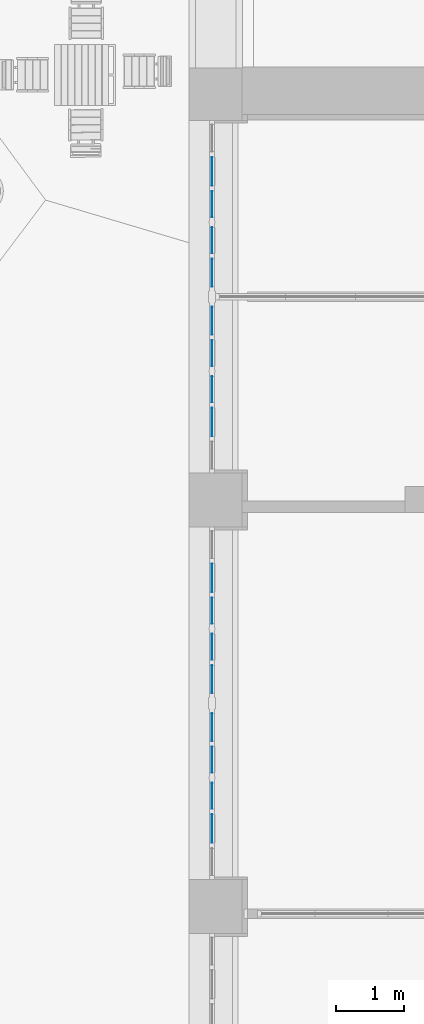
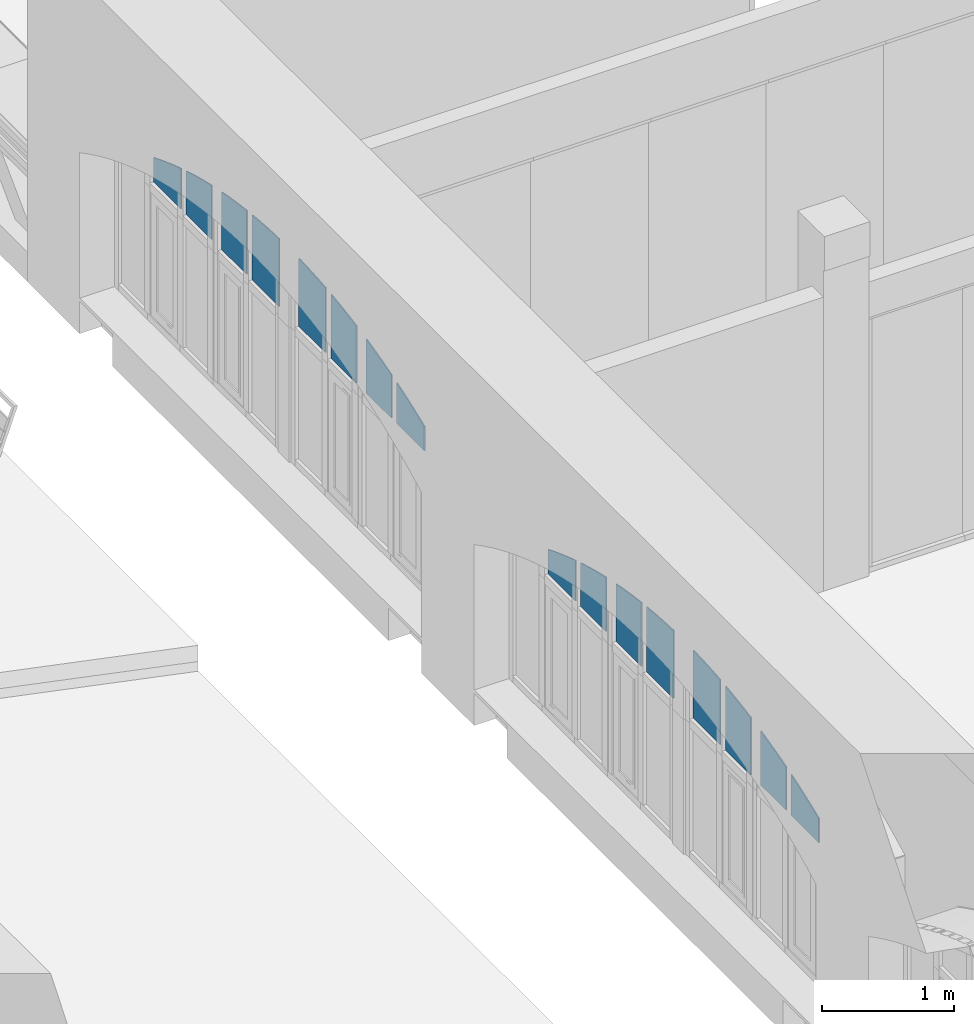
# One storey, part 69 of 88: 16 plates, 2 elements without a shape of their own.
"""IFC2X3 building model written with IfcOpenShell, lengths in millimetres."""

import ifcopenshell
import ifcopenshell.guid

model = None  # the IFC model being written
_history = None  # IfcOwnerHistory: only IFC2X3 demands one
_inside = {}  # id of a spatial element -> (the spatial element, [elements in it])
_under = {}  # id of a project, library or spatial element -> (it, [spatial elements below it])
_declared = {}  # id of a project -> (the project, [libraries it declares])
_typed = {}  # id of a type object -> (the type object, [elements of that type])
_made_of = {}  # id of a material, layer set ... -> (it, [elements and type objects made of it])


def new_model(schema):
    """Start an empty IFC model of exactly this schema.

    Asked for "IFC4X3", IfcOpenShell would pick the latest addendum, in which some entities
    have other attributes; the version numbers below select the first issue.
    IFC2X3 requires an IfcOwnerHistory on every rooted entity: one is made here for all.
    """
    global model, _history
    if schema == "IFC4X3":
        model = ifcopenshell.file(schema_version=(4, 3, 0, 0))
    else:
        model = ifcopenshell.file(schema=schema)
    _inside.clear()
    _under.clear()
    _declared.clear()
    _typed.clear()
    _made_of.clear()
    _history = None
    if model.schema == "IFC2X3":
        org = make("IfcOrganization", Name="unknown")
        user = make(
            "IfcPersonAndOrganization",
            ThePerson=make("IfcPerson", FamilyName="unknown"),
            TheOrganization=org,
        )
        app = make(
            "IfcApplication",
            ApplicationDeveloper=org,
            Version="unknown",
            ApplicationFullName="unknown",
            ApplicationIdentifier="unknown",
        )
        _history = make(
            "IfcOwnerHistory",
            OwningUser=user,
            OwningApplication=app,
            ChangeAction="ADDED",
            CreationDate=0,
        )
    return model


def make(cls, **values):
    """One entity of the class cls with the attributes given. An attribute that is None is left unset."""
    return model.create_entity(
        cls, **{name: value for name, value in values.items() if value is not None}
    )


def entity(cls, *values):
    """Any entity or typed value of the class cls, its attributes in the order of the schema. None: left unset."""
    e = model.create_entity(cls)
    for i, value in enumerate(values):
        if value is not None:
            e[i] = value
    return e


def rooted(cls, **values):
    """An entity with a GlobalId (a new one), such as an element, a storey or a relation."""
    return make(cls, GlobalId=ifcopenshell.guid.new(), OwnerHistory=_history, **values)


def si_unit(unit_type, name, prefix=None):
    """IfcSIUnit, for example si_unit("LENGTHUNIT", "METRE", prefix="MILLI")."""
    return make("IfcSIUnit", UnitType=unit_type, Prefix=prefix, Name=name)


def converted_unit(unit_type, name, factor, base, dimensions=None, offset=None):
    """IfcConversionBasedUnit, such as the inch: factor (a typed value) times the base unit."""
    return make(
        "IfcConversionBasedUnit"
        if offset is None
        else "IfcConversionBasedUnitWithOffset",
        ConversionOffset=offset,
        Dimensions=None
        if dimensions is None
        else entity("IfcDimensionalExponents", *dimensions),
        UnitType=unit_type,
        Name=name,
        ConversionFactor=make(
            "IfcMeasureWithUnit", ValueComponent=factor, UnitComponent=base
        ),
    )


def derived_unit(unit_type, elements):
    """IfcDerivedUnit: a product of units, each with its exponent."""
    return make(
        "IfcDerivedUnit",
        Elements=[
            make("IfcDerivedUnitElement", Unit=unit, Exponent=power)
            for unit, power in elements
        ],
        UnitType=unit_type,
    )


def assignment(units):
    """IfcUnitAssignment: the units of a project."""
    return None if units is None else make("IfcUnitAssignment", Units=units)


def point(xyz):
    """IfcCartesianPoint."""
    return None if xyz is None else make("IfcCartesianPoint", Coordinates=xyz)


def direction(xyz):
    """IfcDirection."""
    return None if xyz is None else make("IfcDirection", DirectionRatios=xyz)


def frame(location, z_axis=None, x_axis=None):
    """IfcAxis2Placement3D, a coordinate frame: its origin and axes. An axis left out is left unset."""
    return make(
        "IfcAxis2Placement3D",
        Location=point(location),
        Axis=direction(z_axis),
        RefDirection=direction(x_axis),
    )


def frame_2d(location, x_axis=None):
    """IfcAxis2Placement2D, a coordinate frame in the plane: its origin and x axis."""
    return make(
        "IfcAxis2Placement2D", Location=point(location), RefDirection=direction(x_axis)
    )


def origin():
    """The frame at (0, 0, 0) with its axes left unset."""
    return frame((0.0, 0.0, 0.0))


def place(relative_to, where):
    """IfcLocalPlacement: puts the frame where relative to a parent placement (None: the world)."""
    return make(
        "IfcLocalPlacement", PlacementRelTo=relative_to, RelativePlacement=where
    )


def context(
    kind, dimensions, precision=None, world=None, true_north=None, identifier=None
):
    """IfcGeometricRepresentationContext, for example the 3D "Model" context."""
    return make(
        "IfcGeometricRepresentationContext",
        ContextIdentifier=identifier,
        ContextType=kind,
        CoordinateSpaceDimension=dimensions,
        Precision=precision,
        WorldCoordinateSystem=world,
        TrueNorth=true_north,
    )


def subcontext(parent, identifier, kind, view, scale=None):
    """IfcGeometricRepresentationSubContext, for example "Body" below "Model"."""
    return make(
        "IfcGeometricRepresentationSubContext",
        ContextIdentifier=identifier,
        ContextType=kind,
        ParentContext=parent,
        TargetScale=scale,
        TargetView=view,
    )


def project(units=None, contexts=None):
    """IfcProject with its units and contexts."""
    return rooted(
        "IfcProject",
        Name="project",
        RepresentationContexts=contexts,
        UnitsInContext=assignment(units),
    )


def spatial(cls, under=None, at=None, **own):
    """A site, building, storey or space (cls), placed at a placement, below another one or the project."""
    s = rooted(cls, ObjectPlacement=at, **own)
    if under is not None:
        _under.setdefault(under.id(), (under, []))[1].append(s)
    return s


def polyline(points):
    """IfcPolyline through the points."""
    return make("IfcPolyline", Points=[point(p) for p in points])


def circle_curve(where, radius):
    """IfcCircle in the frame where."""
    return make("IfcCircle", Position=where, Radius=radius)


def parameter(value):
    """IfcParameterValue: where a trimmed curve begins or ends, as a parameter of its basis curve."""
    return model.create_entity("IfcParameterValue", value)


def trimmed(basis, trim1, trim2, sense, master):
    """IfcTrimmedCurve: the piece of a basis curve between two trims."""
    return make(
        "IfcTrimmedCurve",
        BasisCurve=basis,
        Trim1=trim1,
        Trim2=trim2,
        SenseAgreement=sense,
        MasterRepresentation=master,
    )


def segment(curve, same_sense, transition):
    """IfcCompositeCurveSegment."""
    return make(
        "IfcCompositeCurveSegment",
        Transition=transition,
        SameSense=same_sense,
        ParentCurve=curve,
    )


def composite_curve(segments, self_intersect=None):
    """IfcCompositeCurve: segments joined end to end."""
    return make("IfcCompositeCurve", Segments=segments, SelfIntersect=self_intersect)


def outline(outer, holes=None, kind="AREA"):
    """IfcArbitraryClosedProfileDef: a profile drawn as a closed curve; with holes, ...WithVoids."""
    if holes is None:
        return make("IfcArbitraryClosedProfileDef", ProfileType=kind, OuterCurve=outer)
    return make(
        "IfcArbitraryProfileDefWithVoids",
        ProfileType=kind,
        OuterCurve=outer,
        InnerCurves=holes,
    )


def extrude(swept, where, along, depth):
    """IfcExtrudedAreaSolid: the profile swept, set in the frame where, extruded along a direction by depth."""
    return make(
        "IfcExtrudedAreaSolid",
        SweptArea=swept,
        Position=where,
        ExtrudedDirection=direction(along),
        Depth=depth,
    )


def shape(context_of_items, identifier, shape_type, items):
    """IfcShapeRepresentation: the items that make up one representation, for example the "Body"."""
    return make(
        "IfcShapeRepresentation",
        ContextOfItems=context_of_items,
        RepresentationIdentifier=identifier,
        RepresentationType=shape_type,
        Items=items,
    )


def source(mapping_origin, context_of_items, identifier, shape_type, items):
    """IfcRepresentationMap: a shape defined once, which mapped items show again and again."""
    return make(
        "IfcRepresentationMap",
        MappingOrigin=mapping_origin,
        MappedRepresentation=shape(context_of_items, identifier, shape_type, items),
    )


def transform(
    local_origin,
    x_axis=None,
    y_axis=None,
    z_axis=None,
    scale=None,
    scale2=None,
    scale3=None,
    uniform=True,
):
    """IfcCartesianTransformationOperator3D, or its non-uniform kind. x_axis, y_axis, z_axis: its Axis1, 2, 3."""
    if uniform:
        return make(
            "IfcCartesianTransformationOperator3D",
            Axis1=direction(x_axis),
            Axis2=direction(y_axis),
            LocalOrigin=point(local_origin),
            Scale=scale,
            Axis3=direction(z_axis),
        )
    return make(
        "IfcCartesianTransformationOperator3DnonUniform",
        Axis1=direction(x_axis),
        Axis2=direction(y_axis),
        LocalOrigin=point(local_origin),
        Scale=scale,
        Axis3=direction(z_axis),
        Scale2=scale2,
        Scale3=scale3,
    )


def mapped(mapping_source, mapping_target):
    """IfcMappedItem: shows the shape of a source again, moved by a transform."""
    return make(
        "IfcMappedItem", MappingSource=mapping_source, MappingTarget=mapping_target
    )


def material(Name=None, Category=None):
    """IfcMaterial."""
    return make("IfcMaterial", Name=Name, Category=Category)


def made_of(thing, what):
    """Note that an element or type object is made of a material, layer set ...; save() writes the relation."""
    if what is not None:
        _made_of.setdefault(what.id(), (what, []))[1].append(thing)
    return thing


def type_object(cls, material=None, **own):
    """A type object (cls), such as IfcWallType, which elements share."""
    return made_of(rooted(cls, **own), material)


def type_shapes(of_type, sources):
    """Give a type object the sources (RepresentationMaps) that its elements show as mapped items."""
    of_type.RepresentationMaps = sources


def element(
    cls,
    number,
    at=None,
    inside=None,
    cuts=None,
    type_object=None,
    material=None,
    context=None,
    identifier="Body",
    shape_type=None,
    held_by="IfcProductDefinitionShape",
    body=None,
    shapes=None,
    **own,
):
    """One element of the class cls, such as IfcWall. Its Tag is "e" and its number.

    at: its placement. inside: the storey or other place that contains it. cuts: it is an
    opening in that element (IfcRelVoidsElement). A single representation is given by context,
    identifier, shape_type and body (its items); several are given by shapes. held_by: the class
    of the entity that holds the representations. save() writes the other relations.
    """
    e = rooted(cls, Tag="e%d" % number, ObjectPlacement=at, **own)
    if body is not None:
        shapes = [shape(context, identifier, shape_type, body)]
    if shapes is not None:
        e.Representation = make(held_by, Representations=shapes)
    if inside is not None:
        _inside.setdefault(inside.id(), (inside, []))[1].append(e)
    if cuts is not None:
        rooted(
            "IfcRelVoidsElement", RelatingBuildingElement=cuts, RelatedOpeningElement=e
        )
    if type_object is not None:
        _typed.setdefault(type_object.id(), (type_object, []))[1].append(e)
    return made_of(e, material)


def aggregate(whole, parts):
    """IfcRelAggregates: a whole, such as a stair, and the parts it consists of."""
    return rooted("IfcRelAggregates", RelatingObject=whole, RelatedObjects=parts)


def save(model, path):
    """Write the relations noted so far, then the file.

    IfcRelAggregates (storeys below a building ...), IfcRelContainedInSpatialStructure (elements
    in a storey), IfcRelDefinesByType, IfcRelAssociatesMaterial and IfcRelDeclares: one each for
    every whole, place, type object, material and project.
    """
    for whole, parts in _under.values():
        aggregate(whole, parts)
    for where, things in _inside.values():
        rooted(
            "IfcRelContainedInSpatialStructure",
            RelatedElements=things,
            RelatingStructure=where,
        )
    for kind, things in _typed.values():
        rooted("IfcRelDefinesByType", RelatedObjects=things, RelatingType=kind)
    for what, things in _made_of.values():
        rooted("IfcRelAssociatesMaterial", RelatedObjects=things, RelatingMaterial=what)
    for by, libraries in _declared.values():
        rooted("IfcRelDeclares", RelatingContext=by, RelatedDefinitions=libraries)
    model.write(path)


model = new_model("IFC2X3")

# Units and contexts
model_context = context("Model", 3, precision=0.01, world=origin(), true_north=direction((6.123031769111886e-17, 1.0)))
body_context = subcontext(model_context, "Body", "Model", "MODEL_VIEW")
ifc_project = project(units=[si_unit("LENGTHUNIT", "METRE", prefix="MILLI"), si_unit("AREAUNIT", "SQUARE_METRE"), si_unit("VOLUMEUNIT", "CUBIC_METRE"), converted_unit("PLANEANGLEUNIT", "DEGREE", entity("IfcPlaneAngleMeasure", 0.017453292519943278), si_unit("PLANEANGLEUNIT", "RADIAN"), dimensions=[0, 0, 0, 0, 0, 0, 0]), si_unit("MASSUNIT", "GRAM", prefix="KILO"), derived_unit("MASSDENSITYUNIT", [(si_unit("MASSUNIT", "GRAM", prefix="KILO"), 1), (si_unit("LENGTHUNIT", "METRE"), -3)]), derived_unit("IONCONCENTRATIONUNIT", [(si_unit("MASSUNIT", "GRAM", prefix="KILO"), 1), (si_unit("LENGTHUNIT", "METRE"), -3)]), derived_unit("MOMENTOFINERTIAUNIT", [(si_unit("LENGTHUNIT", "METRE"), 4)]), si_unit("TIMEUNIT", "SECOND"), si_unit("FREQUENCYUNIT", "HERTZ"), si_unit("THERMODYNAMICTEMPERATUREUNIT", "DEGREE_CELSIUS"), derived_unit("THERMALTRANSMITTANCEUNIT", [(si_unit("MASSUNIT", "GRAM", prefix="KILO"), 1), (si_unit("THERMODYNAMICTEMPERATUREUNIT", "KELVIN"), -1), (si_unit("TIMEUNIT", "SECOND"), -3)]), derived_unit("THERMALCONDUCTANCEUNIT", [(si_unit("MASSUNIT", "GRAM", prefix="KILO"), 1), (si_unit("THERMODYNAMICTEMPERATUREUNIT", "KELVIN"), -1), (si_unit("TIMEUNIT", "SECOND"), -3), (si_unit("LENGTHUNIT", "METRE"), 1)]), derived_unit("VOLUMETRICFLOWRATEUNIT", [(si_unit("LENGTHUNIT", "METRE", prefix="DECI"), 3), (si_unit("TIMEUNIT", "SECOND"), -1)]), derived_unit("MASSFLOWRATEUNIT", [(si_unit("MASSUNIT", "GRAM", prefix="KILO"), 1), (si_unit("TIMEUNIT", "SECOND"), -1)]), derived_unit("ROTATIONALFREQUENCYUNIT", [(si_unit("TIMEUNIT", "SECOND"), -1)]), si_unit("ELECTRICCURRENTUNIT", "AMPERE"), si_unit("ELECTRICVOLTAGEUNIT", "VOLT"), si_unit("POWERUNIT", "WATT"), si_unit("FORCEUNIT", "NEWTON", prefix="KILO"), si_unit("ILLUMINANCEUNIT", "LUX"), si_unit("LUMINOUSFLUXUNIT", "LUMEN"), si_unit("LUMINOUSINTENSITYUNIT", "CANDELA"), si_unit("ENERGYUNIT", "JOULE"), derived_unit("USERDEFINED", [(si_unit("MASSUNIT", "GRAM", prefix="KILO"), -1), (si_unit("LENGTHUNIT", "METRE"), -2), (si_unit("TIMEUNIT", "SECOND"), 3), (si_unit("LUMINOUSFLUXUNIT", "LUMEN"), 1)]), derived_unit("USERDEFINED", [(si_unit("MASSUNIT", "GRAM", prefix="KILO"), 1), (si_unit("TIMEUNIT", "SECOND"), -3), (si_unit("LENGTHUNIT", "METRE"), 3), (si_unit("ELECTRICCURRENTUNIT", "AMPERE"), -2)]), derived_unit("SOUNDPOWERUNIT", [(si_unit("MASSUNIT", "GRAM", prefix="KILO"), 1), (si_unit("TIMEUNIT", "SECOND"), -3), (si_unit("LENGTHUNIT", "METRE"), 2)]), derived_unit("SOUNDPRESSUREUNIT", [(si_unit("MASSUNIT", "GRAM", prefix="KILO"), 1), (si_unit("LENGTHUNIT", "METRE"), -1), (si_unit("TIMEUNIT", "SECOND"), -2)]), derived_unit("LINEARVELOCITYUNIT", [(si_unit("LENGTHUNIT", "METRE"), 1), (si_unit("TIMEUNIT", "SECOND"), -1)]), si_unit("PRESSUREUNIT", "PASCAL"), derived_unit("USERDEFINED", [(si_unit("MASSUNIT", "GRAM", prefix="KILO"), 1), (si_unit("LENGTHUNIT", "METRE"), -2), (si_unit("TIMEUNIT", "SECOND"), -2)]), derived_unit("LINEARFORCEUNIT", [(si_unit("MASSUNIT", "GRAM", prefix="KILO"), 1), (si_unit("TIMEUNIT", "SECOND"), -2)]), derived_unit("PLANARFORCEUNIT", [(si_unit("MASSUNIT", "GRAM", prefix="KILO"), 1), (si_unit("LENGTHUNIT", "METRE"), -1), (si_unit("TIMEUNIT", "SECOND"), -2)]), derived_unit("SPECIFICHEATCAPACITYUNIT", [(si_unit("THERMODYNAMICTEMPERATUREUNIT", "KELVIN"), -1), (si_unit("LENGTHUNIT", "METRE"), 2), (si_unit("TIMEUNIT", "SECOND"), -2)]), derived_unit("HEATFLUXDENSITYUNIT", [(si_unit("MASSUNIT", "GRAM", prefix="KILO"), 1), (si_unit("TIMEUNIT", "SECOND"), -3)]), derived_unit("HEATINGVALUEUNIT", [(si_unit("LENGTHUNIT", "METRE"), 2), (si_unit("TIMEUNIT", "SECOND"), -2)]), derived_unit("VAPORPERMEABILITYUNIT", [(si_unit("LENGTHUNIT", "METRE"), -1), (si_unit("TIMEUNIT", "SECOND"), 1)]), derived_unit("DYNAMICVISCOSITYUNIT", [(si_unit("MASSUNIT", "GRAM", prefix="KILO"), 1), (si_unit("TIMEUNIT", "SECOND"), -1), (si_unit("LENGTHUNIT", "METRE"), -1)]), derived_unit("THERMALEXPANSIONCOEFFICIENTUNIT", [(si_unit("THERMODYNAMICTEMPERATUREUNIT", "KELVIN"), -1)]), derived_unit("MODULUSOFELASTICITYUNIT", [(si_unit("MASSUNIT", "GRAM", prefix="KILO"), 1), (si_unit("LENGTHUNIT", "METRE"), -1), (si_unit("TIMEUNIT", "SECOND"), -2)]), derived_unit("ISOTHERMALMOISTURECAPACITYUNIT", [(si_unit("MASSUNIT", "GRAM", prefix="KILO"), -1), (si_unit("LENGTHUNIT", "METRE"), 3)]), derived_unit("MOISTUREDIFFUSIVITYUNIT", [(si_unit("TIMEUNIT", "SECOND"), -1), (si_unit("LENGTHUNIT", "METRE"), 2)]), derived_unit("MASSPERLENGTHUNIT", [(si_unit("MASSUNIT", "GRAM", prefix="KILO"), 1), (si_unit("LENGTHUNIT", "METRE"), -1)]), derived_unit("THERMALRESISTANCEUNIT", [(si_unit("MASSUNIT", "GRAM", prefix="KILO"), -1), (si_unit("TIMEUNIT", "SECOND"), 3), (si_unit("THERMODYNAMICTEMPERATUREUNIT", "KELVIN"), 1)]), derived_unit("ACCELERATIONUNIT", [(si_unit("LENGTHUNIT", "METRE"), 1), (si_unit("TIMEUNIT", "SECOND"), -2)]), derived_unit("ANGULARVELOCITYUNIT", [(si_unit("TIMEUNIT", "SECOND"), -1), (si_unit("PLANEANGLEUNIT", "RADIAN"), 1)]), derived_unit("LINEARSTIFFNESSUNIT", [(si_unit("MASSUNIT", "GRAM", prefix="KILO"), 1), (si_unit("TIMEUNIT", "SECOND"), -2)]), derived_unit("WARPINGCONSTANTUNIT", [(si_unit("LENGTHUNIT", "METRE"), 6)]), derived_unit("LINEARMOMENTUNIT", [(si_unit("MASSUNIT", "GRAM", prefix="KILO"), 1), (si_unit("LENGTHUNIT", "METRE"), 1), (si_unit("TIMEUNIT", "SECOND"), -2)]), derived_unit("TORQUEUNIT", [(si_unit("MASSUNIT", "GRAM", prefix="KILO"), 1), (si_unit("LENGTHUNIT", "METRE"), 2), (si_unit("TIMEUNIT", "SECOND"), -2)])], contexts=[model_context])

# Site, building, storey
site_placement = place(None, origin())
site = spatial("IfcSite", under=ifc_project, at=site_placement, Name="Default", CompositionType="ELEMENT")
building_placement = place(site_placement, origin())
building = spatial("IfcBuilding", under=site, at=building_placement, Name="Eesti Rahvusraamatukogu hoone renoveerimise projekteerimistööd", CompositionType="ELEMENT")
storey_placement = place(building_placement, origin())
storey = spatial("IfcBuildingStorey", under=building, at=storey_placement, Name="1. korrus", CompositionType="ELEMENT", Elevation=0.0)

# Curtain wall, plate
curtain_wall_type = type_object("IfcCurtainWallType", Name="Curtain Wall:Ak-02", PredefinedType="NOTDEFINED")
curtain_wall_1_placement = place(storey_placement, origin())
curtain_wall_1 = element("IfcCurtainWall", 1, at=curtain_wall_1_placement, inside=storey, type_object=curtain_wall_type, Name="Curtain Wall:Ak-02", ObjectType="Curtain Wall:Ak-02")
ifc_material = material(Name="EST. Klaas. 3x. Default")
plate_type_1 = type_object("IfcPlateType", Name="System Panel:Peegelaknad 6-16-4-16-4, paneel", PredefinedType="CURTAIN_PANEL", material=ifc_material)
shared_shape_1 = source(origin(), body_context, "Body", "SweptSolid", [
    extrude(outline(composite_curve([segment(polyline([(-150.7552484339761, -210.0), (74.7524576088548, -210.0)]), True, "CONTINUOUS"), segment(trimmed(circle_curve(frame_2d((-4960.899149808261, 1850.0), x_axis=(0.9570819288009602, -0.28981749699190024)), 5440.715680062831), [parameter(354.5983894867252)], [parameter(359.30346163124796)], True, "PARAMETER"), True, "CONTINUOUS"), segment(polyline([(226.7580392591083, 210.0), (-150.7552484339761, 210.0)]), True, "CONTINUOUS"), segment(polyline([(-150.7552484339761, 210.0), (-150.7552484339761, -210.0)]), True, "CONTINUOUS")], self_intersect=False)), frame((0.0, -5.0, 150.7552484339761), z_axis=(0.0, 1.0, 0.0), x_axis=(0.0, 0.0, 1.0)), (0.0, 0.0, 1.0), 10.0),
])
type_shapes(plate_type_1, [shared_shape_1])
plate_1_placement = place(curtain_wall_1_placement, frame((-36440.0, 47240.0, 3270.0), z_axis=(0.0, 0.0, 1.0), x_axis=(0.0, -1.0, 0.0)))
plate_1 = element("IfcPlate", 2, at=plate_1_placement, type_object=plate_type_1, material=ifc_material, Name="System Panel:Peegelaknad 6-16-4-16-4, paneel", ObjectType="System Panel:Peegelaknad 6-16-4-16-4, paneel", context=body_context, shape_type="MappedRepresentation", body=[
    mapped(shared_shape_1, transform((0.0, 0.0, 0.0), scale=1.0)),
])

curtain_wall_2_placement = place(storey_placement, origin())
curtain_wall_2 = element("IfcCurtainWall", 3, at=curtain_wall_2_placement, inside=storey, type_object=curtain_wall_type, Name="Curtain Wall:Ak-02", ObjectType="Curtain Wall:Ak-02")
plate_2_placement = place(curtain_wall_2_placement, frame((-36440.0, 41240.0, 3270.0), z_axis=(0.0, 0.0, 1.0), x_axis=(0.0, -1.0, 0.0)))
plate_2 = element("IfcPlate", 4, at=plate_2_placement, type_object=plate_type_1, material=ifc_material, Name="System Panel:Peegelaknad 6-16-4-16-4, paneel", ObjectType="System Panel:Peegelaknad 6-16-4-16-4, paneel", context=body_context, shape_type="MappedRepresentation", body=[
    mapped(shared_shape_1, transform((0.0, 0.0, 0.0), scale=1.0)),
])

# Plate
plate_type_2 = type_object("IfcPlateType", Name="System Panel:Peegelaknad 6-16-4-16-4, paneel", PredefinedType="CURTAIN_PANEL", material=ifc_material)
shared_shape_2 = source(origin(), body_context, "Body", "SweptSolid", [
    extrude(outline(composite_curve([segment(polyline([(-226.07666547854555, -192.49999999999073), (176.05217268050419, -192.49999999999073)]), True, "CONTINUOUS"), segment(trimmed(circle_curve(frame_2d((-5036.220566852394, 1367.4999999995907), x_axis=(0.9799487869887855, -0.1992495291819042)), 5440.715680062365), [parameter(354.83097054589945)], [parameter(359.02097398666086)], True, "PARAMETER"), True, "CONTINUOUS"), segment(polyline([(276.1011582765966, 192.5000000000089), (-226.07666547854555, 192.5000000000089)]), True, "CONTINUOUS"), segment(polyline([(-226.07666547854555, 192.5000000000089), (-226.07666547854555, -192.49999999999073)]), True, "CONTINUOUS")], self_intersect=False)), frame((0.0, -5.0, 226.07666547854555), z_axis=(0.0, 1.0, 0.0), x_axis=(0.0, 0.0, 1.0)), (0.0, 0.0, 1.0), 10.0),
])
type_shapes(plate_type_2, [shared_shape_2])
plate_3_placement = place(curtain_wall_1_placement, frame((-36440.0, 46757.49999999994, 3270.0), z_axis=(0.0, 0.0, 1.0), x_axis=(0.0, -1.0, 0.0)))
plate_3 = element("IfcPlate", 5, at=plate_3_placement, type_object=plate_type_2, material=ifc_material, Name="System Panel:Peegelaknad 6-16-4-16-4, paneel", ObjectType="System Panel:Peegelaknad 6-16-4-16-4, paneel", context=body_context, shape_type="MappedRepresentation", body=[
    mapped(shared_shape_2, transform((0.0, 0.0, 0.0), scale=1.0)),
])

plate_4_placement = place(curtain_wall_2_placement, frame((-36440.0, 40757.49999999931, 3270.0), z_axis=(0.0, 0.0, 1.0), x_axis=(0.0, -1.0, 0.0)))
plate_4 = element("IfcPlate", 6, at=plate_4_placement, type_object=plate_type_2, material=ifc_material, Name="System Panel:Peegelaknad 6-16-4-16-4, paneel", ObjectType="System Panel:Peegelaknad 6-16-4-16-4, paneel", context=body_context, shape_type="MappedRepresentation", body=[
    mapped(shared_shape_2, transform((0.0, 0.0, 0.0), scale=1.0)),
])

plate_type_3 = type_object("IfcPlateType", Name="System Panel:Peegelaknad 6-16-4-16-4, paneel", PredefinedType="CURTAIN_PANEL", material=ifc_material)
shared_shape_3 = source(origin(), body_context, "Body", "SweptSolid", [
    extrude(outline(composite_curve([segment(polyline([(-281.48649121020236, -192.4999999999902), (251.66092562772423, -192.4999999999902)]), True, "CONTINUOUS"), segment(trimmed(circle_curve(frame_2d((-5091.630392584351, 832.4999999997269), x_axis=(0.994076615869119, -0.10868156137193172)), 5440.715680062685), [parameter(355.38022484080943)], [parameter(359.4838847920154)], True, "PARAMETER"), True, "CONTINUOUS"), segment(polyline([(311.31205679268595, 192.50000000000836), (-281.48649121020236, 192.50000000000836)]), True, "CONTINUOUS"), segment(polyline([(-281.48649121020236, 192.50000000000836), (-281.48649121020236, -192.4999999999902)]), True, "CONTINUOUS")], self_intersect=False)), frame((0.0, -5.0, 281.48649121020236), z_axis=(0.0, 1.0, 0.0), x_axis=(0.0, 0.0, 1.0)), (0.0, 0.0, 1.0), 10.0),
])
type_shapes(plate_type_3, [shared_shape_3])
plate_5_placement = place(curtain_wall_1_placement, frame((-36440.0, 46222.49999999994, 3270.0), z_axis=(0.0, 0.0, 1.0), x_axis=(0.0, -1.0, 0.0)))
plate_5 = element("IfcPlate", 7, at=plate_5_placement, type_object=plate_type_3, material=ifc_material, Name="System Panel:Peegelaknad 6-16-4-16-4, paneel", ObjectType="System Panel:Peegelaknad 6-16-4-16-4, paneel", context=body_context, shape_type="MappedRepresentation", body=[
    mapped(shared_shape_3, transform((0.0, 0.0, 0.0), scale=1.0)),
])

plate_6_placement = place(curtain_wall_2_placement, frame((-36440.0, 40222.49999999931, 3270.0), z_axis=(0.0, 0.0, 1.0), x_axis=(0.0, -1.0, 0.0)))
plate_6 = element("IfcPlate", 8, at=plate_6_placement, type_object=plate_type_3, material=ifc_material, Name="System Panel:Peegelaknad 6-16-4-16-4, paneel", ObjectType="System Panel:Peegelaknad 6-16-4-16-4, paneel", context=body_context, shape_type="MappedRepresentation", body=[
    mapped(shared_shape_3, transform((0.0, 0.0, 0.0), scale=1.0)),
])

plate_type_4 = type_object("IfcPlateType", Name="System Panel:Peegelaknad 6-16-4-16-4, paneel", PredefinedType="CURTAIN_PANEL", material=ifc_material)
shared_shape_4 = source(origin(), body_context, "Body", "SweptSolid", [
    extrude(outline(composite_curve([segment(polyline([(-307.5447367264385, -205.0), (294.13056723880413, -205.0)]), True, "CONTINUOUS"), segment(trimmed(circle_curve(frame_2d((-5117.688638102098, 355.0), x_axis=(1.0, 0.0)), 5440.715680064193), [parameter(354.0922181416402)], [parameter(358.42016077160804)], True, "PARAMETER"), True, "CONTINUOUS"), segment(polyline([(320.95890621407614, 205.0), (-307.5447367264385, 205.0)]), True, "CONTINUOUS"), segment(polyline([(-307.5447367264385, 205.0), (-307.5447367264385, -205.0)]), True, "CONTINUOUS")], self_intersect=False)), frame((0.0, -5.0, 307.5447367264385), z_axis=(0.0, 1.0, 0.0), x_axis=(0.0, 0.0, 1.0)), (0.0, 0.0, 1.0), 10.0),
])
type_shapes(plate_type_4, [shared_shape_4])
plate_7_placement = place(curtain_wall_1_placement, frame((-36440.0, 45745.0, 3270.0), z_axis=(0.0, 0.0, 1.0), x_axis=(0.0, -1.0, 0.0)))
plate_7 = element("IfcPlate", 9, at=plate_7_placement, type_object=plate_type_4, material=ifc_material, Name="System Panel:Peegelaknad 6-16-4-16-4, paneel", ObjectType="System Panel:Peegelaknad 6-16-4-16-4, paneel", context=body_context, shape_type="MappedRepresentation", body=[
    mapped(shared_shape_4, transform((0.0, 0.0, 0.0), scale=1.0)),
])

plate_8_placement = place(curtain_wall_2_placement, frame((-36440.0, 39745.0, 3270.0), z_axis=(0.0, 0.0, 1.0), x_axis=(0.0, -1.0, 0.0)))
plate_8 = element("IfcPlate", 10, at=plate_8_placement, type_object=plate_type_4, material=ifc_material, Name="System Panel:Peegelaknad 6-16-4-16-4, paneel", ObjectType="System Panel:Peegelaknad 6-16-4-16-4, paneel", context=body_context, shape_type="MappedRepresentation", body=[
    mapped(shared_shape_4, transform((0.0, 0.0, 0.0), scale=1.0)),
])

plate_type_5 = type_object("IfcPlateType", Name="System Panel:Peegelaknad 6-16-4-16-4, paneel", PredefinedType="CURTAIN_PANEL", material=ifc_material)
shared_shape_5 = source(origin(), body_context, "Body", "SweptSolid", [
    extrude(outline(composite_curve([segment(polyline([(-307.5447367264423, 205.0), (-307.5447367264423, -205.0)]), True, "CONTINUOUS"), segment(polyline([(-307.5447367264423, -205.0), (294.1305672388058, -205.0)]), True, "CONTINUOUS"), segment(trimmed(circle_curve(frame_2d((-5117.68863809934, 355.0), x_axis=(0.994076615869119, -0.10868156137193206)), 5440.715680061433), [parameter(0.33153708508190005)], [parameter(4.659479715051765)], True, "PARAMETER"), True, "CONTINUOUS"), segment(polyline([(320.9589062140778, 205.0), (-307.5447367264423, 205.0)]), True, "CONTINUOUS")], self_intersect=False)), frame((0.0, -5.0, 307.5447367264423), z_axis=(0.0, -1.0, 0.0), x_axis=(0.0, 0.0, 1.0)), (0.0, 0.0, -1.0), 10.0),
])
type_shapes(plate_type_5, [shared_shape_5])
plate_9_placement = place(curtain_wall_1_placement, frame((-36440.0, 45035.0, 3270.0), z_axis=(0.0, 0.0, 1.0), x_axis=(0.0, -1.0, 0.0)))
plate_9 = element("IfcPlate", 11, at=plate_9_placement, type_object=plate_type_5, material=ifc_material, Name="System Panel:Peegelaknad 6-16-4-16-4, paneel", ObjectType="System Panel:Peegelaknad 6-16-4-16-4, paneel", context=body_context, shape_type="MappedRepresentation", body=[
    mapped(shared_shape_5, transform((0.0, 0.0, 0.0), scale=1.0)),
])

plate_10_placement = place(curtain_wall_2_placement, frame((-36440.0, 39035.0, 3270.0), z_axis=(0.0, 0.0, 1.0), x_axis=(0.0, -1.0, 0.0)))
plate_10 = element("IfcPlate", 12, at=plate_10_placement, type_object=plate_type_5, material=ifc_material, Name="System Panel:Peegelaknad 6-16-4-16-4, paneel", ObjectType="System Panel:Peegelaknad 6-16-4-16-4, paneel", context=body_context, shape_type="MappedRepresentation", body=[
    mapped(shared_shape_5, transform((0.0, 0.0, 0.0), scale=1.0)),
])

plate_type_6 = type_object("IfcPlateType", Name="System Panel:Peegelaknad 6-16-4-16-4, paneel", PredefinedType="CURTAIN_PANEL", material=ifc_material)
shared_shape_6 = source(origin(), body_context, "Body", "SweptSolid", [
    extrude(outline(composite_curve([segment(polyline([(-281.4864912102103, 192.49999999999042), (-281.48649121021, -192.50000000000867)]), True, "CONTINUOUS"), segment(polyline([(-281.48649121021, -192.50000000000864), (251.66092562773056, -192.50000000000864)]), True, "CONTINUOUS"), segment(trimmed(circle_curve(frame_2d((-5091.6303925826, 832.4999999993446), x_axis=(0.9799487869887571, -0.1992495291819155)), 5440.715680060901), [parameter(0.6339828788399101)], [parameter(4.737642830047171)], True, "PARAMETER"), True, "CONTINUOUS"), segment(polyline([(311.3120567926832, 192.49999999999), (-281.4864912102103, 192.49999999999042)]), True, "CONTINUOUS")], self_intersect=False)), frame((0.0, -5.0, 281.48649121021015), z_axis=(0.0, -1.0, 0.0), x_axis=(0.0, 0.0, 1.0)), (0.0, 0.0, -1.0), 10.0),
])
type_shapes(plate_type_6, [shared_shape_6])
plate_11_placement = place(curtain_wall_1_placement, frame((-36440.0, 44557.50000000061, 3270.0), z_axis=(0.0, 0.0, 1.0), x_axis=(0.0, -1.0, 0.0)))
plate_11 = element("IfcPlate", 13, at=plate_11_placement, type_object=plate_type_6, material=ifc_material, Name="System Panel:Peegelaknad 6-16-4-16-4, paneel", ObjectType="System Panel:Peegelaknad 6-16-4-16-4, paneel", context=body_context, shape_type="MappedRepresentation", body=[
    mapped(shared_shape_6, transform((0.0, 0.0, 0.0), scale=1.0)),
])

plate_12_placement = place(curtain_wall_2_placement, frame((-36440.0, 38557.499999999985, 3270.0), z_axis=(0.0, 0.0, 1.0), x_axis=(0.0, -1.0, 0.0)))
plate_12 = element("IfcPlate", 14, at=plate_12_placement, type_object=plate_type_6, material=ifc_material, Name="System Panel:Peegelaknad 6-16-4-16-4, paneel", ObjectType="System Panel:Peegelaknad 6-16-4-16-4, paneel", context=body_context, shape_type="MappedRepresentation", body=[
    mapped(shared_shape_6, transform((0.0, 0.0, 0.0), scale=1.0)),
])

plate_type_7 = type_object("IfcPlateType", Name="System Panel:Peegelaknad 6-16-4-16-4, paneel", PredefinedType="CURTAIN_PANEL", material=ifc_material)
shared_shape_7 = source(origin(), body_context, "Body", "SweptSolid", [
    extrude(outline(composite_curve([segment(polyline([(-226.07666547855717, 192.49999999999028), (-226.07666547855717, -192.50000000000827)]), True, "CONTINUOUS"), segment(polyline([(-226.07666547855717, -192.50000000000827), (176.0521726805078, -192.50000000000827)]), True, "CONTINUOUS"), segment(trimmed(circle_curve(frame_2d((-5036.220566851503, 1367.4999999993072), x_axis=(0.9570819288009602, -0.2898174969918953)), 5440.715680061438), [parameter(0.18492371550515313)], [parameter(4.374927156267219)], True, "PARAMETER"), True, "CONTINUOUS"), segment(polyline([(276.10115827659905, 192.49999999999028), (-226.07666547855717, 192.49999999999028)]), True, "CONTINUOUS")], self_intersect=False)), frame((0.0, -5.0, 226.07666547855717), z_axis=(0.0, -1.0, 0.0), x_axis=(0.0, 0.0, 1.0)), (0.0, 0.0, -1.0), 10.0),
])
type_shapes(plate_type_7, [shared_shape_7])
plate_13_placement = place(curtain_wall_1_placement, frame((-36440.0, 44022.50000000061, 3270.0), z_axis=(0.0, 0.0, 1.0), x_axis=(0.0, -1.0, 0.0)))
plate_13 = element("IfcPlate", 15, at=plate_13_placement, type_object=plate_type_7, material=ifc_material, Name="System Panel:Peegelaknad 6-16-4-16-4, paneel", ObjectType="System Panel:Peegelaknad 6-16-4-16-4, paneel", context=body_context, shape_type="MappedRepresentation", body=[
    mapped(shared_shape_7, transform((0.0, 0.0, 0.0), scale=1.0)),
])

plate_14_placement = place(curtain_wall_2_placement, frame((-36440.0, 38022.499999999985, 3270.0), z_axis=(0.0, 0.0, 1.0), x_axis=(0.0, -1.0, 0.0)))
plate_14 = element("IfcPlate", 16, at=plate_14_placement, type_object=plate_type_7, material=ifc_material, Name="System Panel:Peegelaknad 6-16-4-16-4, paneel", ObjectType="System Panel:Peegelaknad 6-16-4-16-4, paneel", context=body_context, shape_type="MappedRepresentation", body=[
    mapped(shared_shape_7, transform((0.0, 0.0, 0.0), scale=1.0)),
])

plate_type_8 = type_object("IfcPlateType", Name="System Panel:Peegelaknad 6-16-4-16-4, paneel", PredefinedType="CURTAIN_PANEL", material=ifc_material)
shared_shape_8 = source(origin(), body_context, "Body", "SweptSolid", [
    extrude(outline(composite_curve([segment(polyline([(-150.75524843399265, 210.0), (-150.75524843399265, -210.0)]), True, "CONTINUOUS"), segment(polyline([(-150.75524843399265, -210.0), (74.75245760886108, -210.0)]), True, "CONTINUOUS"), segment(trimmed(circle_curve(frame_2d((-4960.899149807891, 1850.0), x_axis=(0.9248280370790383, -0.3803854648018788)), 5440.715680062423), [parameter(0.1089206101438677)], [parameter(4.8139927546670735)], True, "PARAMETER"), True, "CONTINUOUS"), segment(polyline([(226.75803925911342, 210.0), (-150.75524843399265, 210.0)]), True, "CONTINUOUS")], self_intersect=False)), frame((0.0, -5.0, 150.75524843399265), z_axis=(0.0, -1.0, 0.0), x_axis=(0.0, 0.0, 1.0)), (0.0, 0.0, -1.0), 10.0),
])
type_shapes(plate_type_8, [shared_shape_8])
plate_15_placement = place(curtain_wall_1_placement, frame((-36440.0, 43540.0, 3270.0), z_axis=(0.0, 0.0, 1.0), x_axis=(0.0, -1.0, 0.0)))
plate_15 = element("IfcPlate", 17, at=plate_15_placement, type_object=plate_type_8, material=ifc_material, Name="System Panel:Peegelaknad 6-16-4-16-4, paneel", ObjectType="System Panel:Peegelaknad 6-16-4-16-4, paneel", context=body_context, shape_type="MappedRepresentation", body=[
    mapped(shared_shape_8, transform((0.0, 0.0, 0.0), scale=1.0)),
])

aggregate(curtain_wall_1, [plate_1, plate_3, plate_5, plate_7, plate_9, plate_11, plate_13, plate_15])

plate_16_placement = place(curtain_wall_2_placement, frame((-36440.0, 37540.0, 3270.0), z_axis=(0.0, 0.0, 1.0), x_axis=(0.0, -1.0, 0.0)))
plate_16 = element("IfcPlate", 18, at=plate_16_placement, type_object=plate_type_8, material=ifc_material, Name="System Panel:Peegelaknad 6-16-4-16-4, paneel", ObjectType="System Panel:Peegelaknad 6-16-4-16-4, paneel", context=body_context, shape_type="MappedRepresentation", body=[
    mapped(shared_shape_8, transform((0.0, 0.0, 0.0), scale=1.0)),
])

aggregate(curtain_wall_2, [plate_2, plate_4, plate_6, plate_8, plate_10, plate_12, plate_14, plate_16])

save(model, "model.ifc")
